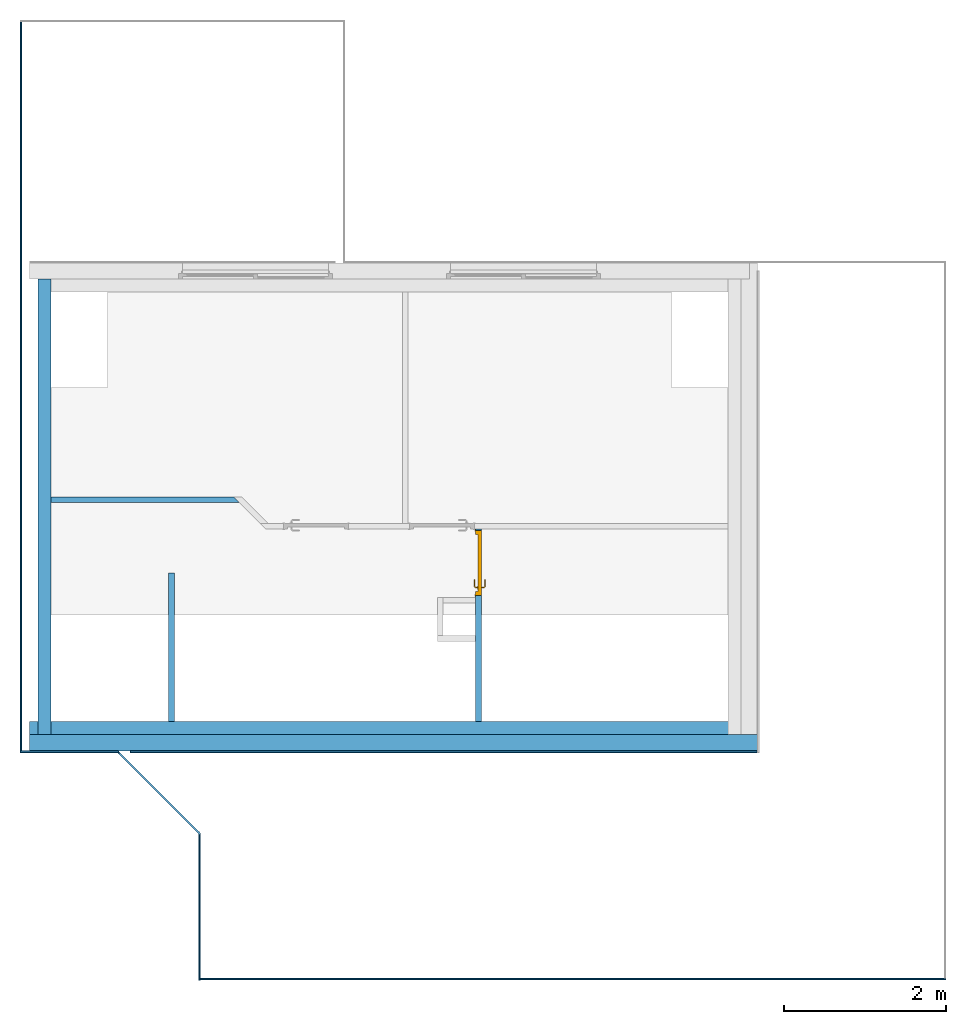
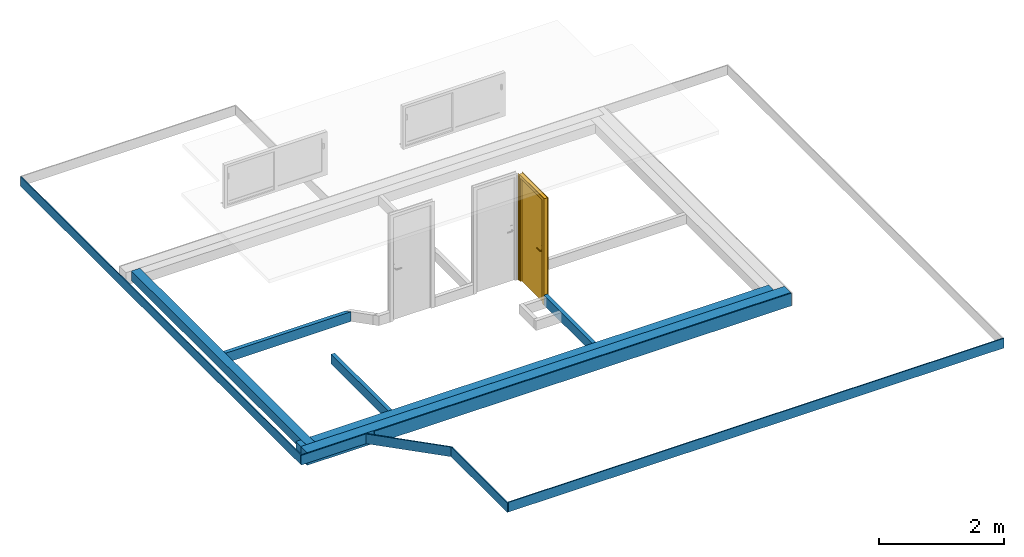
# One storey, part 1 of 5: 12 walls, 1 door, 1 opening.
"""IFC2X3 building model written with IfcOpenShell, lengths in centimetres."""

from ifc_helpers import new_model, entity, si_unit, converted_unit, derived_unit, direction, frame, frame_2d, origin, place, context, subcontext, project, spatial, polyline, rectangle, outline, extrude, clip, halfspace, bounded_halfspace, faceted_brep, source, transform, mapped, material, material_list, layer, layer_set, layer_usage, type_object, type_shapes, element, fill, save


model = new_model("IFC2X3")

# Units and contexts
model_context = context("Model", 3, precision=0.001, world=origin(), true_north=direction((6.12303176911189e-17, 1.0)))
body_context = subcontext(model_context, "Body", "Model", "MODEL_VIEW")
ifc_project = project(units=[si_unit("LENGTHUNIT", "METRE", prefix="CENTI"), si_unit("AREAUNIT", "SQUARE_METRE"), si_unit("VOLUMEUNIT", "CUBIC_METRE"), converted_unit("PLANEANGLEUNIT", "DEGREE", entity("IfcRatioMeasure", 0.0174532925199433), si_unit("PLANEANGLEUNIT", "RADIAN"), dimensions=[0, 0, 0, 0, 0, 0, 0]), si_unit("MASSUNIT", "GRAM", prefix="KILO"), derived_unit("MASSDENSITYUNIT", [(si_unit("MASSUNIT", "GRAM", prefix="KILO"), 1), (si_unit("LENGTHUNIT", "METRE"), -3)]), derived_unit("MOMENTOFINERTIAUNIT", [(si_unit("LENGTHUNIT", "METRE"), 4)]), si_unit("TIMEUNIT", "SECOND"), si_unit("FREQUENCYUNIT", "HERTZ"), si_unit("THERMODYNAMICTEMPERATUREUNIT", "DEGREE_CELSIUS"), derived_unit("THERMALTRANSMITTANCEUNIT", [(si_unit("MASSUNIT", "GRAM", prefix="KILO"), 1), (si_unit("THERMODYNAMICTEMPERATUREUNIT", "KELVIN"), -1), (si_unit("TIMEUNIT", "SECOND"), -3)]), derived_unit("VOLUMETRICFLOWRATEUNIT", [(si_unit("LENGTHUNIT", "METRE"), 3), (si_unit("TIMEUNIT", "SECOND"), -1)]), si_unit("ELECTRICCURRENTUNIT", "AMPERE"), si_unit("ELECTRICVOLTAGEUNIT", "VOLT"), si_unit("POWERUNIT", "WATT"), si_unit("FORCEUNIT", "NEWTON", prefix="KILO"), si_unit("ILLUMINANCEUNIT", "LUX"), si_unit("LUMINOUSFLUXUNIT", "LUMEN"), si_unit("LUMINOUSINTENSITYUNIT", "CANDELA"), derived_unit("USERDEFINED", [(si_unit("MASSUNIT", "GRAM", prefix="KILO"), -1), (si_unit("LENGTHUNIT", "METRE"), -2), (si_unit("TIMEUNIT", "SECOND"), 3), (si_unit("LUMINOUSFLUXUNIT", "LUMEN"), 1)]), derived_unit("LINEARVELOCITYUNIT", [(si_unit("LENGTHUNIT", "METRE"), 1), (si_unit("TIMEUNIT", "SECOND"), -1)]), si_unit("PRESSUREUNIT", "PASCAL"), derived_unit("USERDEFINED", [(si_unit("LENGTHUNIT", "METRE"), -2), (si_unit("MASSUNIT", "GRAM", prefix="KILO"), 1), (si_unit("TIMEUNIT", "SECOND"), -2)]), derived_unit("LINEARFORCEUNIT", [(si_unit("MASSUNIT", "GRAM", prefix="KILO"), 1), (si_unit("LENGTHUNIT", "METRE"), 1), (si_unit("TIMEUNIT", "SECOND"), -2), (si_unit("LENGTHUNIT", "METRE"), -1)]), derived_unit("PLANARFORCEUNIT", [(si_unit("MASSUNIT", "GRAM", prefix="KILO"), 1), (si_unit("LENGTHUNIT", "METRE"), 1), (si_unit("TIMEUNIT", "SECOND"), -2), (si_unit("LENGTHUNIT", "METRE"), -2)])], contexts=[model_context])

# Site, building, storey
site_placement = place(None, origin())
site = spatial("IfcSite", under=ifc_project, at=site_placement, Name="Surface", CompositionType="ELEMENT")
building_placement = place(site_placement, origin())
building = spatial("IfcBuilding", under=site, at=building_placement, CompositionType="ELEMENT")
storey_placement = place(building_placement, frame((0.0, 0.0, 263.0)))
storey = spatial("IfcBuildingStorey", under=building, at=storey_placement, Name="2.63_Etage", CompositionType="ELEMENT", Elevation=263.0)

# Walls
ifc_material_1 = material(Name="Maçonnerie - Béton")
ifc_layer_1 = layer(ifc_material_1, 20.0)
ifc_layer_set_1 = layer_set([ifc_layer_1], Name="Mur de base:Mur 20")
ifc_layer_usage_1 = layer_usage(ifc_layer_set_1, "AXIS2", "NEGATIVE", 10.0)
wall_type_1 = type_object("IfcWallType", Name="Mur de base:Mur 20", PredefinedType="STANDARD", material=ifc_layer_set_1)
wall_1_placement = place(storey_placement, frame((-882.177260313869, 130.99231712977, -6.0), z_axis=(0.0, 0.0, 1.0), x_axis=(-1.0, 0.0, 0.0)))
element("IfcWallStandardCase", 1, at=wall_1_placement, inside=storey, type_object=wall_type_1, material=ifc_layer_usage_1, Name="Mur de base:Mur 20", ObjectType="Mur de base:Mur 20", context=body_context, shape_type="Clipping", body=[
    clip(extrude(rectangle(XDim=896.000000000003, YDim=20.0, at=frame_2d((448.000000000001, 7.99360577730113e-15), x_axis=(-1.0, 0.0))), origin(), (0.0, 0.0, 1.0), 24.9999999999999), halfspace(frame((0.0, 0.0, -6.0)), True)),
])
ifc_material_2 = material(Name="Maçonnerie - Enduit")
ifc_layer_2 = layer(ifc_material_2, 2.0)
ifc_layer_set_2 = layer_set([ifc_layer_2], Name="Mur de base:Enduit 2")
ifc_layer_usage_2 = layer_usage(ifc_layer_set_2, "AXIS2", "POSITIVE", -1.0)
wall_type_2 = type_object("IfcWallType", Name="Mur de base:Enduit 2", PredefinedType="STANDARD", material=ifc_layer_set_2)
wall_2_placement = place(storey_placement, frame((-1790.17726031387, 119.992317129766, 0.0)))
element("IfcWallStandardCase", 2, at=wall_2_placement, inside=storey, type_object=wall_type_2, material=ifc_layer_usage_2, Name="Mur de base:Enduit 2", ObjectType="Mur de base:Enduit 2", context=body_context, shape_type="Clipping", body=[
    clip(extrude(outline(polyline([(122.828427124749, -1.0), (120.828427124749, 1.0), (22.0, 1.0), (2.0, 1.0), (0.0, 1.0), (0.0, -1.0), (122.828427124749, -1.0)])), origin(), (0.0, 0.0, 1.0), 19.0), halfspace(frame((0.0, 0.0, -271.0)), True)),
])
ifc_layer_usage_3 = layer_usage(ifc_layer_set_2, "AXIS2", "POSITIVE", -1.0)
wall_3_placement = place(storey_placement, frame((-1671.47015353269, 121.699423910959, 0.0), z_axis=(0.0, 0.0, 1.0), x_axis=(0.707106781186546, -0.707106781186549, 0.0)))
element("IfcWallStandardCase", 3, at=wall_3_placement, inside=storey, type_object=wall_type_2, material=ifc_layer_usage_3, Name="Mur de base:Enduit 2", ObjectType="Mur de base:Enduit 2", context=body_context, shape_type="Clipping", body=[
    clip(extrude(outline(polyline([(147.078210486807, -1.0), (145.078210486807, 1.0), (2.0, 1.0), (0.0, -1.0), (147.078210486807, -1.0)])), origin(), (0.0, 0.0, 1.0), 19.0), halfspace(frame((0.0, 0.0, -271.0)), True)),
])
ifc_layer_usage_4 = layer_usage(ifc_layer_set_2, "AXIS2", "POSITIVE", -1.0)
wall_4_placement = place(storey_placement, frame((-1569.17726031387, 21.8207442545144, 0.0), z_axis=(0.0, 0.0, 1.0), x_axis=(0.0, -1.0, 0.0)))
element("IfcWallStandardCase", 4, at=wall_4_placement, inside=storey, type_object=wall_type_2, material=ifc_layer_usage_4, Name="Mur de base:Enduit 2", ObjectType="Mur de base:Enduit 2", context=body_context, shape_type="Clipping", body=[
    clip(extrude(outline(polyline([(182.828427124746, -1.0), (182.828427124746, 1.0), (180.828427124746, 1.0), (160.828427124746, 1.0), (2.0, 1.0), (0.0, -1.0), (182.828427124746, -1.0)])), origin(), (0.0, 0.0, 1.0), 19.0), halfspace(frame((0.0, 0.0, -271.0)), True)),
])
ifc_layer_usage_5 = layer_usage(ifc_layer_set_2, "AXIS2", "POSITIVE", -1.0)
wall_5_placement = place(storey_placement, frame((-1568.17726031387, -160.007682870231, 0.0)))
element("IfcWallStandardCase", 5, at=wall_5_placement, inside=storey, type_object=wall_type_2, material=ifc_layer_usage_5, Name="Mur de base:Enduit 2", ObjectType="Mur de base:Enduit 2", context=body_context, shape_type="Clipping", body=[
    clip(extrude(rectangle(XDim=918.0, YDim=1.99999999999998, at=frame_2d((459.0, 3.1641356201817e-15), x_axis=(-1.0, 0.0))), origin(), (0.0, 0.0, 1.0), 19.0), halfspace(frame((0.0, 0.0, -271.0)), True)),
])
ifc_layer_usage_6 = layer_usage(ifc_layer_set_2, "AXIS2", "POSITIVE", -1.0)
wall_6_placement = place(storey_placement, frame((-1789.17726031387, 1018.99231712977, 0.0), z_axis=(0.0, 0.0, 1.0), x_axis=(0.0, -1.0, 0.0)))
element("IfcWallStandardCase", 6, at=wall_6_placement, inside=storey, type_object=wall_type_2, material=ifc_layer_usage_6, Name="Mur de base:Enduit 2", ObjectType="Mur de base:Enduit 2", context=body_context, shape_type="Clipping", body=[
    clip(extrude(rectangle(XDim=898.0, YDim=1.99999999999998, at=frame_2d((449.0, -1.72084568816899e-15), x_axis=(-1.0, 0.0))), origin(), (0.0, 0.0, 1.0), 19.0), halfspace(frame((0.0, 0.0, -271.0)), True)),
])
ifc_layer_usage_7 = layer_usage(ifc_layer_set_2, "AXIS2", "NEGATIVE", 1.0)
wall_7_placement = place(storey_placement, frame((-882.177260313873, 119.992317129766, -6.0), z_axis=(0.0, 0.0, 1.0), x_axis=(-1.0, 0.0, 0.0)))
element("IfcWallStandardCase", 7, at=wall_7_placement, inside=storey, type_object=wall_type_2, material=ifc_layer_usage_7, Name="Mur de base:Enduit 2", ObjectType="Mur de base:Enduit 2", context=body_context, shape_type="Clipping", body=[
    clip(clip(extrude(rectangle(XDim=772.029437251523, YDim=2.00000000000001, at=frame_2d((386.014718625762, -3.33066907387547e-15), x_axis=(-1.0, 0.0))), origin(), (0.0, 0.0, 1.0), 24.9999999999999), bounded_halfspace(frame((756.887301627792, 1.0, 25.0), z_axis=(0.0, 0.0, -1.0), x_axis=(0.0, -1.0, 0.0)), True, frame((756.887301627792, 1.0, 25.0)), polyline([(0.0, 0.0), (0.0, -2.0), (15.1421356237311, -2.0), (15.1421356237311, 0.0), (0.0, 0.0)]))), halfspace(frame((0.0, 0.0, -6.0)), True)),
])
ifc_material_3 = material(Name="Isolant rigide")
ifc_layer_3 = layer(ifc_material_3, 16.0)
ifc_layer_set_3 = layer_set([ifc_layer_3], Name="Mur de base:Doublage 16")
ifc_layer_usage_8 = layer_usage(ifc_layer_set_3, "AXIS2", "POSITIVE", -8.0)
wall_type_3 = type_object("IfcWallType", Name="Mur de base:Doublage 16", PredefinedType="STANDARD", material=ifc_layer_set_3)
wall_8_placement = place(storey_placement, frame((-902.177260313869, 148.99231712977, 0.0), z_axis=(0.0, 0.0, 1.0), x_axis=(-1.0, 0.0, 0.0)))
element("IfcWallStandardCase", 8, at=wall_8_placement, inside=storey, type_object=wall_type_3, material=ifc_layer_usage_8, Name="Mur de base:Doublage 16", ObjectType="Mur de base:Doublage 16", context=body_context, shape_type="Clipping", body=[
    clip(extrude(rectangle(XDim=876.000000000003, YDim=16.0, at=frame_2d((438.000000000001, 2.66453525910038e-15), x_axis=(-1.0, 0.0))), origin(), (0.0, 0.0, 1.0), 19.0), halfspace(origin(), True)),
])
ifc_layer_usage_9 = layer_usage(ifc_layer_set_3, "AXIS2", "POSITIVE", -8.0)
wall_9_placement = place(storey_placement, frame((-1760.17726031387, 140.992317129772, 0.0), z_axis=(0.0, 0.0, 1.0), x_axis=(0.0, 1.0, 0.0)))
element("IfcWallStandardCase", 9, at=wall_9_placement, inside=storey, type_object=wall_type_3, material=ifc_layer_usage_9, Name="Mur de base:Doublage 16", ObjectType="Mur de base:Doublage 16", context=body_context, shape_type="Clipping", body=[
    clip(extrude(rectangle(XDim=561.0, YDim=15.9999999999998, at=frame_2d((280.5, 0.0), x_axis=(-1.0, 0.0))), origin(), (0.0, 0.0, 1.0), 19.0), halfspace(origin(), True)),
])
ifc_material_4 = material(Name="Mur par défaut")
ifc_layer_4 = layer(ifc_material_4, 7.0)
ifc_layer_set_4 = layer_set([ifc_layer_4], Name="Mur de base:Cloison 7cm")
ifc_layer_usage_10 = layer_usage(ifc_layer_set_4, "AXIS2", "POSITIVE", -3.5)
wall_type_4 = type_object("IfcWallType", Name="Mur de base:Cloison 7cm", PredefinedType="STANDARD", material=ifc_layer_set_4)
wall_10_placement = place(storey_placement, frame((-1520.17726031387, 430.492317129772, 0.0), z_axis=(0.0, 0.0, 1.0), x_axis=(-1.0, 0.0, 0.0)))
element("IfcWallStandardCase", 10, at=wall_10_placement, inside=storey, type_object=wall_type_4, material=ifc_layer_usage_10, Name="Mur de base:Cloison 7cm", ObjectType="Mur de base:Cloison 7cm", context=body_context, shape_type="Clipping", body=[
    clip(extrude(outline(polyline([(232.0, -3.49999999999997), (232.0, 3.50000000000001), (0.0, 3.50000000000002), (7.0, -3.49999999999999), (232.0, -3.49999999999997)])), origin(), (0.0, 0.0, 1.0), 19.0), halfspace(origin(), True)),
])

# Wall, opening, door
ifc_layer_usage_11 = layer_usage(ifc_layer_set_4, "AXIS2", "POSITIVE", -3.5)
wall_11_placement = place(storey_placement, frame((-1225.67726031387, 393.992317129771, 0.0), z_axis=(0.0, 0.0, 1.0), x_axis=(0.0, -1.0, 0.0)))
wall_11 = element("IfcWallStandardCase", 11, at=wall_11_placement, inside=storey, type_object=wall_type_4, material=ifc_layer_usage_11, Name="Mur de base:Cloison 7cm", ObjectType="Mur de base:Cloison 7cm", context=body_context, shape_type="Clipping", body=[
    clip(extrude(rectangle(XDim=237.0, YDim=7.00000000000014, at=frame_2d((118.5, 0.0), x_axis=(-1.0, 0.0))), origin(), (0.0, 0.0, 1.0), 19.0), halfspace(origin(), True)),
])
opening_placement = place(wall_11_placement, frame((1.500000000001, -3.50000000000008, 0.0)))
opening = element("IfcOpeningElement", 12, at=opening_placement, cuts=wall_11, Name="Int. Simple:PP (0.73m x 2.04m):1", ObjectType="Opening", context=body_context, shape_type="SweptSolid", body=[
    extrude(rectangle(XDim=207.5, YDim=79.9999999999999, at=frame_2d((103.75, 40.0), x_axis=(1.0, 0.0))), frame((0.0, 0.0, 0.0), z_axis=(0.0, 1.0, 0.0), x_axis=(0.0, 0.0, 1.0)), (0.0, 0.0, 1.0), 7.0),
])
ifc_material_5 = material(Name="Finition Peinture - Blanc satiné")
ifc_material_6 = material(Name="Bois - Panneau de porte")
ifc_material_7 = material(Name="Bois - Cadre de porte")
ifc_material_list_1 = material_list([ifc_material_5, ifc_material_6, ifc_material_7])
ifc_material_list_2 = material_list([ifc_material_7, ifc_material_5, ifc_material_6])
door_style = type_object("IfcDoorStyle", Name="Int. Simple:PP (0.73m x 2.04m)", ConstructionType="NOTDEFINED", OperationType="NOTDEFINED", ParameterTakesPrecedence=False, Sizeable=False, material=ifc_material_list_2)
shared_shape = source(origin(), body_context, "Body", "Brep", [
    faceted_brep([(10.5352761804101, -0.500000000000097, 86.6003983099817), (11.5, -0.500000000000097, 87.0), (11.4999999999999, -0.500000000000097, 108.0), (10.53527618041, -0.500000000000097, 108.399601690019), (9.49999999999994, -0.500000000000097, 108.535898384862), (8.46472381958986, -0.500000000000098, 108.399601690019), (7.49999999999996, -0.500000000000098, 108.0), (7.50000000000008, -0.500000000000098, 87.0), (8.46472381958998, -0.500000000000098, 86.6003983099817), (9.50000000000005, -0.500000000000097, 86.464101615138), (10.53527618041, 0.0, 108.399601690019), (11.4999999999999, 0.0, 108.0), (11.5, 0.0, 87.0), (10.5352761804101, 0.0, 86.6003983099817), (9.50000000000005, 0.0, 86.464101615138), (8.46472381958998, 0.0, 86.6003983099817), (7.49999999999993, 0.0, 87.0), (7.49999999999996, 0.0, 108.0), (8.46472381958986, 0.0, 108.399601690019), (9.49999999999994, 0.0, 108.535898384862)], [[[0, 1, 2, 3, 4, 5, 6, 7, 8, 9]], [[10, 11, 12, 13, 14, 15, 16, 17, 18, 19]], [[16, 15, 8, 7]], [[8, 15, 14, 9]], [[14, 13, 0, 9]], [[13, 12, 1, 0]], [[2, 1, 12, 11]], [[11, 10, 3, 2]], [[3, 10, 19, 4]], [[19, 18, 5, 4]], [[18, 17, 6, 5]], [[7, 6, 17, 16]]]),
    faceted_brep([(10.5352761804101, 4.0, 86.6003983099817), (11.5, 4.0, 87.0), (11.4999999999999, 4.0, 108.0), (10.53527618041, 4.0, 108.399601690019), (9.4999999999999, 4.0, 108.535898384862), (8.46472381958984, 4.0, 108.399601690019), (7.49999999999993, 4.0, 108.0), (7.50000000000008, 4.0, 87.0), (8.46472381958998, 4.0, 86.6003983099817), (9.50000000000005, 4.0, 86.464101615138), (10.53527618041, 4.4999999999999, 108.399601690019), (11.4999999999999, 4.4999999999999, 108.0), (11.5, 4.4999999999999, 87.0), (10.5352761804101, 4.4999999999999, 86.6003983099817), (9.50000000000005, 4.4999999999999, 86.464101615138), (8.46472381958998, 4.4999999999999, 86.6003983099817), (7.49999999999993, 4.4999999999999, 87.0), (7.49999999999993, 4.4999999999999, 108.0), (8.46472381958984, 4.4999999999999, 108.399601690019), (9.4999999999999, 4.4999999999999, 108.535898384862)], [[[0, 1, 2, 3, 4, 5, 6, 7, 8, 9]], [[10, 11, 12, 13, 14, 15, 16, 17, 18, 19]], [[11, 10, 3, 2]], [[3, 10, 19, 4]], [[19, 18, 5, 4]], [[18, 17, 6, 5]], [[7, 6, 17, 16]], [[16, 15, 8, 7]], [[8, 15, 14, 9]], [[14, 13, 0, 9]], [[13, 12, 1, 0]], [[2, 1, 12, 11]]]),
    faceted_brep([(9.29747013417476, -0.500000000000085, 100.778044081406), (9.70252986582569, -0.500000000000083, 100.778044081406), (10.1000000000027, -0.500000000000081, 100.699999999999), (10.1000000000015, -0.500000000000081, 99.3000000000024), (9.70252986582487, -0.500000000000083, 99.2219559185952), (9.29747013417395, -0.500000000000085, 99.221955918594), (8.89999999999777, -0.500000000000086, 99.2999999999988), (8.89999999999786, -0.500000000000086, 100.7), (8.89999999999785, -3.26509507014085, 100.7), (9.29747013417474, -3.10045754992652, 100.778044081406), (10.9023585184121, -4.7053459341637, 100.778044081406), (11.0701397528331, -4.30028620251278, 100.778044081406), (9.70252986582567, -2.93267631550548, 100.778044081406), (10.1000000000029, -2.76803879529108, 100.7), (10.1000000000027, -2.76803879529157, 99.3000000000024), (9.70252986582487, -2.93267631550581, 99.2219559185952), (11.0701397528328, -4.30028620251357, 99.2219559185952), (10.9023585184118, -4.70534593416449, 99.221955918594), (9.29747013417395, -3.10045754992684, 99.221955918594), (8.89999999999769, -3.26509507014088, 99.2999999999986), (10.7377209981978, -5.1028160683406, 100.7), (11.2347772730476, -3.9028160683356, 100.7), (11.2347772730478, -3.90281606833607, 99.3000000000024), (10.7377209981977, -5.10281606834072, 99.2999999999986), (19.5018640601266, -5.1028160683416, 99.2999999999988), (19.5018640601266, -4.70534593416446, 99.221955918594), (19.5018640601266, -4.30028620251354, 99.2219559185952), (19.5018640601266, -3.90281606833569, 99.3000000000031), (19.5018640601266, -3.90281606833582, 100.7), (19.5018640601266, -4.30028620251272, 100.778044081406), (19.5018640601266, -4.70534593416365, 100.778044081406), (19.5018640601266, -5.10281606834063, 100.699999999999), (14.7307697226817, -5.10281606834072, 100.7), (15.2860019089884, -4.50281606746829, 100.78786867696), (15.368320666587, -3.90281606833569, 100.7), (15.3683206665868, -3.90281606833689, 99.3000000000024), (15.2860018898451, -4.50281607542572, 99.2121313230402), (14.7307700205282, -5.10281606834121, 99.2999999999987)], [[[0, 1, 2, 3, 4, 5, 6, 7]], [[8, 9, 0, 7]], [[9, 10, 11, 12, 1, 0]], [[12, 13, 2, 1]], [[3, 2, 13, 14]], [[14, 15, 4, 3]], [[15, 16, 17, 18, 5, 4]], [[18, 19, 6, 5]], [[7, 6, 19, 8]], [[20, 10, 9, 8]], [[11, 21, 13, 12]], [[14, 13, 21, 22]], [[22, 16, 15, 14]], [[17, 23, 19, 18]], [[8, 19, 23, 20]], [[24, 25, 26, 27, 28, 29, 30, 31]], [[32, 30, 33]], [[31, 30, 32]], [[10, 20, 32]], [[33, 34, 11]], [[21, 11, 34]], [[34, 29, 28]], [[30, 29, 33]], [[29, 34, 33]], [[10, 32, 33]], [[10, 33, 11]], [[22, 21, 34, 28, 27, 35]], [[35, 26, 36]], [[37, 36, 25]], [[22, 35, 16]], [[35, 27, 26]], [[24, 37, 25]], [[23, 17, 37]], [[37, 17, 36]], [[17, 16, 36]], [[16, 35, 36]], [[25, 36, 26]], [[20, 23, 37, 24, 31, 32]]]),
    faceted_brep([(9.29747013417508, 4.49999999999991, 100.778044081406), (8.89999999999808, 4.49999999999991, 100.7), (8.89999999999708, 4.49999999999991, 99.2999999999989), (9.29747013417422, 4.49999999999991, 99.221955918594), (9.70252986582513, 4.49999999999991, 99.2219559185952), (10.100000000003, 4.49999999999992, 99.3000000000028), (10.1000000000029, 4.49999999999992, 100.7), (9.70252986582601, 4.49999999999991, 100.778044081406), (10.100000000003, 6.74852045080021, 99.3000000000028), (10.100000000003, 6.74852045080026, 100.7), (9.70252986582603, 6.91315797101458, 100.778044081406), (11.0838906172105, 8.29451872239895, 100.778044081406), (10.9161093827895, 8.69957845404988, 100.778044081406), (9.2974701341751, 7.0809392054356, 100.778044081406), (8.89999999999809, 7.24557672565, 100.7), (8.89999999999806, 7.24557672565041, 99.2999999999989), (9.29747013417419, 7.08093920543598, 99.221955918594), (10.9161093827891, 8.69957845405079, 99.221955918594), (11.0838906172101, 8.29451872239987, 99.2219559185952), (9.70252986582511, 6.91315797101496, 99.2219559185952), (11.2485281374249, 7.89704858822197, 99.3000000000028), (11.2485281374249, 7.897048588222, 100.7), (10.7514718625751, 9.0970485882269, 100.7), (10.7514718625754, 9.09704858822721, 99.2999999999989), (19.5045783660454, 7.89704858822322, 99.3000000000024), (19.5045783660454, 8.29451872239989, 99.2219559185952), (19.5045783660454, 8.69957845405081, 99.221955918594), (19.5045783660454, 9.09704858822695, 99.2999999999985), (19.5045783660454, 9.09704858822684, 100.7), (19.5045783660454, 8.69957845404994, 100.778044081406), (19.5045783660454, 8.29451872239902, 100.778044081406), (19.5045783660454, 7.897048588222, 100.7), (15.3765520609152, 7.89704858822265, 99.3000000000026), (15.3765532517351, 7.89704858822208, 100.7), (15.2942344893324, 8.49704858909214, 100.78786867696), (14.7445205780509, 9.09704858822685, 100.7), (14.7445204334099, 9.09704858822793, 99.2999999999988), (15.2942345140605, 8.49704858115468, 99.2121313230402)], [[[0, 1, 2, 3, 4, 5, 6, 7]], [[6, 5, 8, 9]], [[9, 10, 7, 6]], [[10, 11, 12, 13, 0, 7]], [[13, 14, 1, 0]], [[2, 1, 14, 15]], [[15, 16, 3, 2]], [[16, 17, 18, 19, 4, 3]], [[19, 8, 5, 4]], [[9, 8, 20, 21]], [[21, 11, 10, 9]], [[12, 22, 14, 13]], [[15, 14, 22, 23]], [[23, 17, 16, 15]], [[18, 20, 8, 19]], [[24, 25, 26, 27, 28, 29, 30, 31]], [[21, 20, 32, 24, 31, 33]], [[33, 30, 34]], [[35, 34, 29]], [[21, 33, 11]], [[33, 31, 30]], [[28, 35, 29]], [[22, 12, 35]], [[35, 12, 34]], [[12, 11, 34]], [[11, 33, 34]], [[29, 34, 30]], [[22, 35, 28, 27, 36, 23]], [[36, 26, 37]], [[27, 26, 36]], [[17, 23, 36]], [[37, 32, 18]], [[20, 18, 32]], [[32, 25, 24]], [[26, 25, 37]], [[25, 32, 37]], [[17, 36, 37]], [[17, 37, 18]]]),
    faceted_brep([(3.49999999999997, 4.0, 204.0), (76.5, 4.0, 204.0), (76.5, 4.0, 0.0), (3.49999999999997, 4.0, 0.0), (3.49999999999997, 0.0, 204.0), (3.49999999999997, 0.0, 0.0), (76.5, 0.0, 0.0), (76.5, 0.0, 204.0)], [[[0, 1, 2, 3]], [[4, 5, 6, 7]], [[1, 0, 4, 7]], [[2, 1, 7, 6]], [[3, 2, 6, 5]], [[0, 3, 5, 4]]]),
    faceted_brep([(0.0, 0.0, 0.0), (0.0, 7.0, 0.0), (5.0, 7.0, 0.0), (5.0, 4.0, 0.0), (3.49999999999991, 4.0, 0.0), (3.49999999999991, 0.0, 0.0), (0.0, 0.0, 207.500000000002), (0.0, 7.0, 207.500000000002), (80.0, 7.0, 207.500000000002), (80.0, 7.0, 0.0), (75.0, 7.0, 0.0), (75.0, 7.0, 202.5), (5.0, 7.0, 202.5), (5.0, 4.0, 202.5), (75.0, 4.0, 202.5), (75.0, 4.0, 0.0), (76.5000000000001, 4.0, 0.0), (76.5000000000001, 4.0, 204.0), (3.49999999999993, 4.0, 204.0), (3.49999999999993, 0.0, 204.0), (76.5000000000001, 0.0, 204.0), (76.5000000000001, 0.0, 0.0), (80.0, 0.0, 0.0), (80.0, 0.0, 207.500000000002)], [[[0, 1, 2, 3, 4, 5]], [[1, 0, 6, 7]], [[2, 1, 7, 8, 9, 10, 11, 12]], [[3, 2, 12, 13]], [[4, 3, 13, 14, 15, 16, 17, 18]], [[5, 4, 18, 19]], [[0, 5, 19, 20, 21, 22, 23, 6]], [[8, 23, 22, 9]], [[22, 21, 16, 15, 10, 9]], [[14, 11, 10, 15]], [[20, 17, 16, 21]], [[7, 6, 23, 8]], [[13, 12, 11, 14]], [[19, 18, 17, 20]]]),
    faceted_brep([(1.49999999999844, 7.0, 0.0), (-1.50000000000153, 7.0, 0.0), (-1.50000000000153, 7.49999999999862, 0.0), (1.49999999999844, 7.49999999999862, 0.0), (1.49999999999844, 7.0, 206.0), (78.4999999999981, 7.0, 206.0), (78.4999999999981, 7.0, 0.0), (81.499999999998, 7.0, 0.0), (81.499999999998, 7.0, 209.0), (-1.50000000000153, 7.0, 209.0), (-1.50000000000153, 7.49999999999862, 209.0), (81.499999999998, 7.49999999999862, 209.0), (81.499999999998, 7.49999999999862, 0.0), (78.4999999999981, 7.49999999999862, 0.0), (78.4999999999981, 7.49999999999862, 206.0), (1.49999999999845, 7.49999999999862, 206.0)], [[[0, 1, 2, 3]], [[1, 0, 4, 5, 6, 7, 8, 9]], [[2, 1, 9, 10]], [[3, 2, 10, 11, 12, 13, 14, 15]], [[0, 3, 15, 4]], [[6, 13, 12, 7]], [[5, 14, 13, 6]], [[11, 8, 7, 12]], [[10, 9, 8, 11]], [[4, 15, 14, 5]]]),
    faceted_brep([(-1.50000000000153, -0.499999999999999, 0.0), (1.49999999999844, -0.499999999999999, 0.0), (1.49999999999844, -0.499999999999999, 206.0), (78.4999999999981, -0.499999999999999, 206.0), (78.4999999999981, -0.499999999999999, 0.0), (81.499999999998, -0.499999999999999, 0.0), (81.499999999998, -0.499999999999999, 209.0), (-1.50000000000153, -0.499999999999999, 209.0), (-1.50000000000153, 0.0, 0.0), (-1.50000000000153, 0.0, 209.0), (1.49999999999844, 0.0, 0.0), (81.499999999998, 0.0, 209.0), (81.499999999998, 0.0, 0.0), (78.4999999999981, 0.0, 0.0), (78.4999999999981, 0.0, 206.0), (1.49999999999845, 0.0, 206.0)], [[[0, 1, 2, 3, 4, 5, 6, 7]], [[8, 0, 7, 9]], [[10, 8, 9, 11, 12, 13, 14, 15]], [[1, 10, 15, 2]], [[3, 14, 13, 4]], [[11, 6, 5, 12]], [[9, 7, 6, 11]], [[2, 15, 14, 3]], [[4, 13, 12, 5]], [[1, 0, 8, 10]]]),
])
type_shapes(door_style, [shared_shape])
door_placement = place(opening_placement, frame((80.0, 7.0, 0.0), z_axis=(0.0, 0.0, 1.0), x_axis=(-1.0, 0.0, 0.0)))
door = element("IfcDoor", 13, at=door_placement, inside=storey, type_object=door_style, material=ifc_material_list_1, Name="Int. Simple:PP (0.73m x 2.04m)", ObjectType="Int. Simple:PP (0.73m x 2.04m)", OverallHeight=207.5, OverallWidth=79.9999999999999, context=body_context, shape_type="MappedRepresentation", body=[
    mapped(shared_shape, transform((0.0, 0.0, 0.0), scale=1.0)),
])
fill(opening, door)

# Wall
ifc_layer_usage_12 = layer_usage(ifc_layer_set_4, "AXIS2", "NEGATIVE", 3.5)
wall_12_placement = place(storey_placement, frame((-1603.67726031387, 156.992317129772, 0.0), z_axis=(0.0, 0.0, 1.0), x_axis=(0.0, 1.0, 0.0)))
element("IfcWallStandardCase", 14, at=wall_12_placement, inside=storey, type_object=wall_type_4, material=ifc_layer_usage_12, Name="Mur de base:Cloison 7cm", ObjectType="Mur de base:Cloison 7cm", context=body_context, shape_type="Clipping", body=[
    clip(extrude(rectangle(XDim=182.999999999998, YDim=7.00000000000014, at=frame_2d((91.4999999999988, 0.0), x_axis=(-1.0, 0.0))), origin(), (0.0, 0.0, 1.0), 19.0), halfspace(origin(), True)),
])

save(model, "model.ifc")
